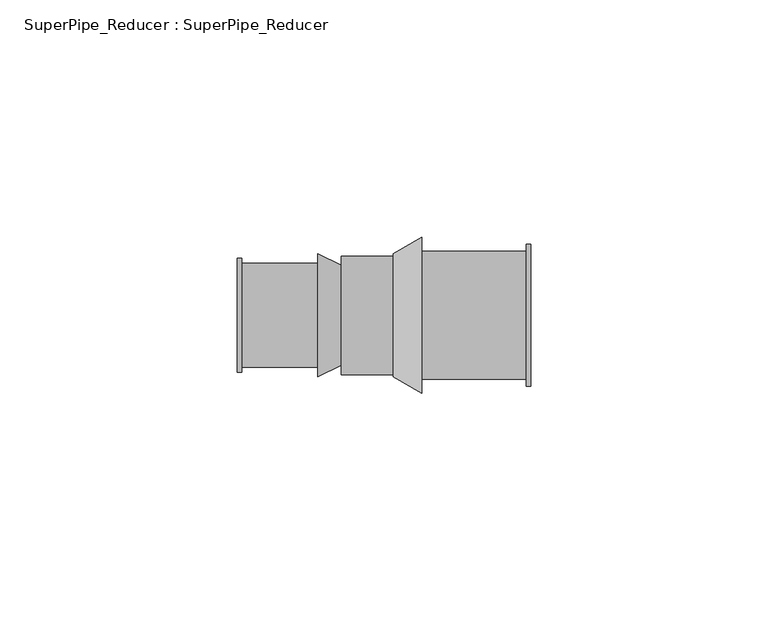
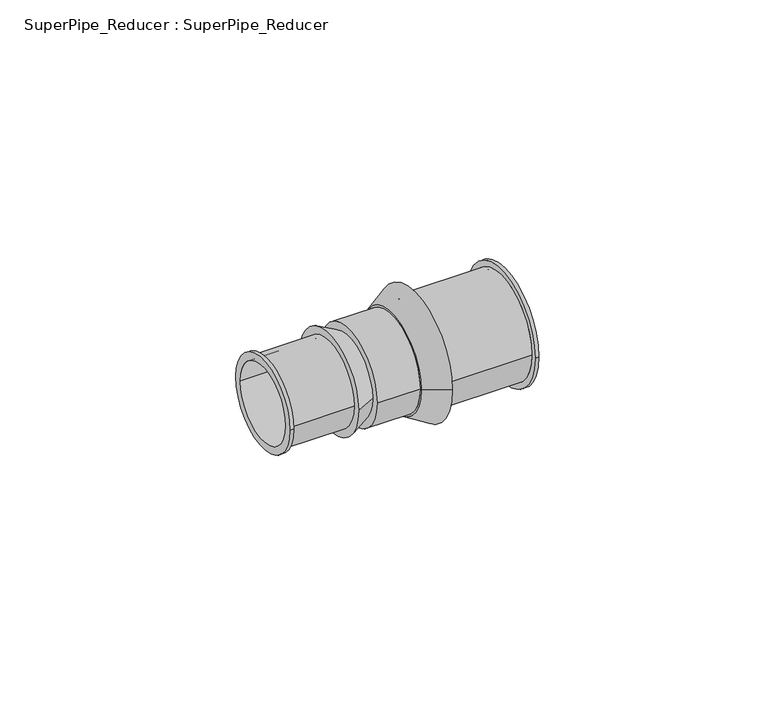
"""IFC4 building model written with IfcOpenShell, lengths in millimetres: pipe fitting geometry, SuperPipe_Reducer : SuperPipe_Reducer."""

from ifc_helpers import new_model, si_unit, point, frame, origin, origin_2d, place, context, project, spatial, polyline, circle_curve, trimmed, segment, composite_curve, outline, extrude, source, transform, mapped, element, save
from ifc_brep_helpers import plane_surface, cylinder_surface, revolved_surface, advanced_brep


def superpipe_reducer_superpipe_reducer_bb732e57(model_context):
    return source(origin(), model_context, "Body", "SolidModel", [
        advanced_brep(
        [(-31.0, -12.0, 0.0), (-31.0, 12.0, 0.0), (-31.0, -10.0, 0.0), (-31.0, 10.0, 0.0), (-14.0, -11.0, 0.0), (-14.0, 11.0, 0.0), (-14.0, -10.0, 0.0), (-14.0, 10.0, 0.0), (-30.0, -10.0, 0.0), (-30.0, 10.0, 0.0), (-30.0, 11.0, 0.0), (-30.0, -11.0, 0.0), (-30.0, -12.0, 0.0), (-30.0, 12.0, 0.0)],
        [
            (0, 1, circle_curve(frame((-31.0, 0.0, 0.0), z_axis=(-1.0, 0.0, 0.0), x_axis=(0.0, 1.0, 0.0)), 12.0)),
            (1, 0, circle_curve(frame((-31.0, 0.0, 0.0), z_axis=(-1.0, 0.0, 0.0), x_axis=(0.0, 1.0, 0.0)), 12.0)),
            (2, 3, circle_curve(frame((-31.0, 0.0, 0.0), z_axis=(1.0, 0.0, 0.0), x_axis=(0.0, 1.0, 0.0)), 10.0)),
            (3, 2, circle_curve(frame((-31.0, 0.0, 0.0), z_axis=(1.0, 0.0, 0.0), x_axis=(0.0, 1.0, 0.0)), 10.0)),
            (4, 5, circle_curve(frame((-14.0, 0.0, 0.0), z_axis=(1.0, 0.0, 0.0), x_axis=(0.0, 1.0, 0.0)), 11.0)),
            (5, 4, circle_curve(frame((-14.0, 0.0, 0.0), z_axis=(1.0, 0.0, 0.0), x_axis=(0.0, 1.0, 0.0)), 11.0)),
            (6, 7, circle_curve(frame((-14.0, 0.0, 0.0), z_axis=(-1.0, 0.0, 0.0), x_axis=(0.0, 1.0, 0.0)), 10.0)),
            (7, 6, circle_curve(frame((-14.0, 0.0, 0.0), z_axis=(-1.0, 0.0, 0.0), x_axis=(0.0, 1.0, 0.0)), 10.0)),
            (2, 8),
            (8, 6),
            (7, 9),
            (9, 3),
            (5, 10),
            (10, 11, circle_curve(frame((-30.0, 0.0, 0.0), z_axis=(1.0, 0.0, 0.0), x_axis=(0.0, 1.0, 0.0)), 11.0)),
            (11, 4),
            (11, 10, circle_curve(frame((-30.0, 0.0, 0.0), z_axis=(1.0, 0.0, 0.0), x_axis=(0.0, 1.0, 0.0)), 11.0)),
            (12, 13, circle_curve(frame((-30.0, 0.0, 0.0), z_axis=(1.0, 0.0, 0.0), x_axis=(0.0, 1.0, 0.0)), 12.0)),
            (13, 12, circle_curve(frame((-30.0, 0.0, 0.0), z_axis=(1.0, 0.0, 0.0), x_axis=(0.0, 1.0, 0.0)), 12.0)),
            (1, 13),
            (12, 0),
        ],
        [
            plane_surface(frame((-31.0, 0.0, 0.0), z_axis=(-1.0, 0.0, 0.0), x_axis=(0.0, 0.0, 1.0))),
            plane_surface(frame((-14.0, 0.0, 0.0), z_axis=(1.0, 0.0, 0.0), x_axis=(0.0, 0.0, 1.0))),
            revolved_surface(polyline([(-14.0, 10.0, 0.0), (-31.0, 10.0, 0.0)]), (-31.0, 0.0, 0.0), (1.0, 0.0, 0.0)),
            cylinder_surface(frame((-31.0, 0.0, 0.0), z_axis=(-1.0, 0.0, 0.0), x_axis=(0.0, 1.0, 0.0)), 11.0),
            plane_surface(frame((-30.0, 0.0, 0.0), z_axis=(1.0, 0.0, 0.0), x_axis=(0.0, 0.0, 1.0))),
            cylinder_surface(frame((-31.0, 0.0, 0.0), z_axis=(-1.0, 0.0, 0.0), x_axis=(0.0, 1.0, 0.0)), 12.0),
        ],
        [
            (0, [[1, 2], [3, 4]]),
            (1, [[5, 6], [7, 8]]),
            (2, [[-3, 9, 10, -8, 11, 12]]),
            (2, [[-4, -12, -11, -7, -10, -9]]),
            (3, [[-6, 13, 14, 15]]),
            (3, [[-5, -15, 16, -13]]),
            (4, [[17, 18], [-14, -16]]),
            (5, [[-2, 19, -17, 20]]),
            (5, [[-1, -20, -18, -19]]),
        ],
    ),
        advanced_brep(
        [(-9.0, -10.5, 0.0), (-9.0, 10.5, 0.0), (-9.0, -10.0, 0.0), (-9.0, 10.0, 0.0), (-14.0, -13.0, 0.0), (-14.0, 13.0, 0.0), (-14.0, 10.0, 0.0), (-14.0, -10.0, 0.0)],
        [
            (0, 1, circle_curve(frame((-9.0, 0.0, 0.0), z_axis=(1.0, 0.0, 0.0), x_axis=(0.0, -1.0, 0.0)), 10.5)),
            (1, 0, circle_curve(frame((-9.0, 0.0, 0.0), z_axis=(1.0, 0.0, 0.0), x_axis=(0.0, 1.0, 0.0)), 10.5)),
            (2, 3, circle_curve(frame((-9.0, 0.0, 0.0), z_axis=(-1.0, 0.0, 0.0), x_axis=(0.0, 1.0, 0.0)), 10.0)),
            (3, 2, circle_curve(frame((-9.0, 0.0, 0.0), z_axis=(-1.0, 0.0, 0.0), x_axis=(0.0, 1.0, 0.0)), 10.0)),
            (4, 5, circle_curve(frame((-14.0, 0.0, 0.0), z_axis=(-1.0, 0.0, 0.0), x_axis=(0.0, 1.0, 0.0)), 13.0)),
            (5, 4, circle_curve(frame((-14.0, 0.0, 0.0), z_axis=(-1.0, 0.0, 0.0), x_axis=(0.0, -1.0, 0.0)), 13.0)),
            (6, 7, circle_curve(frame((-14.0, 0.0, 0.0), z_axis=(1.0, 0.0, 0.0), x_axis=(0.0, 1.0, 0.0)), 10.0)),
            (7, 6, circle_curve(frame((-14.0, 0.0, 0.0), z_axis=(1.0, 0.0, 0.0), x_axis=(0.0, 1.0, 0.0)), 10.0)),
            (0, 4),
            (5, 1),
            (6, 3),
            (2, 7),
        ],
        [
            plane_surface(frame((-9.0, 0.0, 0.0), z_axis=(1.0, 0.0, 0.0), x_axis=(0.0, 0.0, -1.0))),
            plane_surface(frame((-14.0, 0.0, 0.0), z_axis=(-1.0, 0.0, 0.0), x_axis=(0.0, 0.0, -1.0))),
            revolved_surface(polyline([(-9.0, -10.5, 0.0), (-14.0, -13.0, 0.0)]), (12.0, 0.0, 0.0), (-1.0, 0.0, 0.0)),
            revolved_surface(polyline([(-9.0, 10.5, 0.0), (-14.0, 13.0, 0.0)]), (12.0, 0.0, 0.0), (-1.0, 0.0, 0.0)),
            revolved_surface(polyline([(-14.0, 10.0, 0.0), (-9.0, 10.0, 0.0)]), (-14.0, 0.0, 0.0), (-1.0, 0.0, 0.0)),
        ],
        [
            (0, [[1, 2], [3, 4]]),
            (1, [[5, 6], [7, 8]]),
            (2, [[-1, 9, -6, 10]]),
            (3, [[-2, -10, -5, -9]]),
            (4, [[11, -3, 12, -7]]),
            (4, [[-11, -8, -12, -4]]),
        ],
    ),
        advanced_brep(
        [(8.0, -16.5, 0.0), (8.0, 16.5, 0.0), (8.0, -12.5, 0.0), (8.0, 12.5, 0.0), (2.0, -13.0, 0.0), (2.0, 13.0, 0.0), (2.0, 12.5, 0.0), (2.0, -12.5, 0.0)],
        [
            (0, 1, circle_curve(frame((8.0, 0.0, 0.0), z_axis=(1.0, 0.0, 0.0), x_axis=(0.0, -1.0, 0.0)), 16.5)),
            (1, 0, circle_curve(frame((8.0, 0.0, 0.0), z_axis=(1.0, 0.0, 0.0), x_axis=(0.0, 1.0, 0.0)), 16.5)),
            (2, 3, circle_curve(frame((8.0, 0.0, 0.0), z_axis=(-1.0, 0.0, 0.0), x_axis=(0.0, 1.0, 0.0)), 12.5)),
            (3, 2, circle_curve(frame((8.0, 0.0, 0.0), z_axis=(-1.0, 0.0, 0.0), x_axis=(0.0, 1.0, 0.0)), 12.5)),
            (4, 5, circle_curve(frame((2.0, 0.0, 0.0), z_axis=(-1.0, 0.0, 0.0), x_axis=(0.0, 1.0, 0.0)), 13.0)),
            (5, 4, circle_curve(frame((2.0, 0.0, 0.0), z_axis=(-1.0, 0.0, 0.0), x_axis=(0.0, -1.0, 0.0)), 13.0)),
            (6, 7, circle_curve(frame((2.0, 0.0, 0.0), z_axis=(1.0, 0.0, 0.0), x_axis=(0.0, 1.0, 0.0)), 12.5)),
            (7, 6, circle_curve(frame((2.0, 0.0, 0.0), z_axis=(1.0, 0.0, 0.0), x_axis=(0.0, 1.0, 0.0)), 12.5)),
            (0, 4),
            (5, 1),
            (6, 3),
            (2, 7),
        ],
        [
            plane_surface(frame((8.0, 0.0, 0.0), z_axis=(1.0, 0.0, 0.0), x_axis=(0.0, 0.0, -1.0))),
            plane_surface(frame((2.0, 0.0, 0.0), z_axis=(-1.0, 0.0, 0.0), x_axis=(0.0, 0.0, -1.0))),
            revolved_surface(polyline([(2.0, 13.000000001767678, 0.0), (8.0, 16.5, 0.0)]), (-20.2857143, 0.0, 0.0), (1.0, 0.0, 0.0)),
            revolved_surface(polyline([(2.0, -13.000000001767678, 0.0), (8.0, -16.5, 0.0)]), (-20.2857143, 0.0, 0.0), (1.0, 0.0, 0.0)),
            revolved_surface(polyline([(2.0, 12.5, 0.0), (8.0, 12.5, 0.0)]), (2.0, 0.0, 0.0), (-1.0, 0.0, 0.0)),
        ],
        [
            (0, [[1, 2], [3, 4]]),
            (1, [[5, 6], [7, 8]]),
            (2, [[-1, 9, -6, 10]]),
            (3, [[-2, -10, -5, -9]]),
            (4, [[11, -3, 12, -7]]),
            (4, [[-11, -8, -12, -4]]),
        ],
    ),
        advanced_brep(
        [(8.0, -13.5, 0.0), (8.0, 13.5, 0.0), (8.0, -12.5, 0.0), (8.0, 12.5, 0.0), (31.0, -15.0, 0.0), (31.0, 15.0, 0.0), (31.0, -12.5, 0.0), (31.0, 12.5, 0.0), (30.0, -13.5, 0.0), (30.0, 13.5, 0.0), (30.0, -12.5, 0.0), (30.0, 12.5, 0.0), (30.0, -15.0, 0.0), (30.0, 15.0, 0.0)],
        [
            (0, 1, circle_curve(frame((8.0, 0.0, 0.0), z_axis=(-1.0, 0.0, 0.0), x_axis=(0.0, 1.0, 0.0)), 13.5)),
            (1, 0, circle_curve(frame((8.0, 0.0, 0.0), z_axis=(-1.0, 0.0, 0.0), x_axis=(0.0, 1.0, 0.0)), 13.5)),
            (2, 3, circle_curve(frame((8.0, 0.0, 0.0), z_axis=(1.0, 0.0, 0.0), x_axis=(0.0, 1.0, 0.0)), 12.5)),
            (3, 2, circle_curve(frame((8.0, 0.0, 0.0), z_axis=(1.0, 0.0, 0.0), x_axis=(0.0, 1.0, 0.0)), 12.5)),
            (4, 5, circle_curve(frame((31.0, 0.0, 0.0), z_axis=(1.0, 0.0, 0.0), x_axis=(0.0, 1.0, 0.0)), 15.0)),
            (5, 4, circle_curve(frame((31.0, 0.0, 0.0), z_axis=(1.0, 0.0, 0.0), x_axis=(0.0, 1.0, 0.0)), 15.0)),
            (6, 7, circle_curve(frame((31.0, 0.0, 0.0), z_axis=(-1.0, 0.0, 0.0), x_axis=(0.0, 1.0, 0.0)), 12.5)),
            (7, 6, circle_curve(frame((31.0, 0.0, 0.0), z_axis=(-1.0, 0.0, 0.0), x_axis=(0.0, 1.0, 0.0)), 12.5)),
            (0, 8),
            (8, 9, circle_curve(frame((30.0, 0.0, 0.0), z_axis=(-1.0, 0.0, 0.0), x_axis=(0.0, 1.0, 0.0)), 13.5)),
            (9, 1),
            (9, 8, circle_curve(frame((30.0, 0.0, 0.0), z_axis=(-1.0, 0.0, 0.0), x_axis=(0.0, 1.0, 0.0)), 13.5)),
            (2, 10),
            (10, 6),
            (7, 11),
            (11, 3),
            (12, 13, circle_curve(frame((30.0, 0.0, 0.0), z_axis=(-1.0, 0.0, 0.0), x_axis=(0.0, 1.0, 0.0)), 15.0)),
            (13, 12, circle_curve(frame((30.0, 0.0, 0.0), z_axis=(-1.0, 0.0, 0.0), x_axis=(0.0, 1.0, 0.0)), 15.0)),
            (13, 5),
            (4, 12),
        ],
        [
            plane_surface(frame((8.0, 0.0, 0.0), z_axis=(-1.0, 0.0, 0.0), x_axis=(0.0, 0.0, 1.0))),
            plane_surface(frame((31.0, 0.0, 0.0), z_axis=(1.0, 0.0, 0.0), x_axis=(0.0, 0.0, 1.0))),
            cylinder_surface(frame((8.0, 0.0, 0.0), z_axis=(-1.0, 0.0, 0.0), x_axis=(0.0, 1.0, 0.0)), 13.5),
            revolved_surface(polyline([(31.0, 12.5, 0.0), (8.0, 12.5, 0.0)]), (8.0, 0.0, 0.0), (1.0, 0.0, 0.0)),
            plane_surface(frame((30.0, 0.0, 0.0), z_axis=(-1.0, 0.0, 0.0), x_axis=(0.0, 0.0, 1.0))),
            cylinder_surface(frame((30.0, 0.0, 0.0), z_axis=(-1.0, 0.0, 0.0), x_axis=(0.0, 1.0, 0.0)), 15.0),
        ],
        [
            (0, [[1, 2], [3, 4]]),
            (1, [[5, 6], [7, 8]]),
            (2, [[-1, 9, 10, 11]]),
            (2, [[-2, -11, 12, -9]]),
            (3, [[-3, 13, 14, -8, 15, 16]]),
            (3, [[-4, -16, -15, -7, -14, -13]]),
            (4, [[17, 18], [-10, -12]]),
            (5, [[-18, 19, -5, 20]]),
            (5, [[-17, -20, -6, -19]]),
        ],
    ),
        extrude(outline(composite_curve([segment(trimmed(circle_curve(origin_2d(), 12.5), [point((-12.5, 0.0))], [point((12.5, 0.0))], False, "CARTESIAN"), True, "CONTINUOUS"), segment(trimmed(circle_curve(origin_2d(), 12.5), [point((12.5, 0.0))], [point((-12.5, 0.0))], False, "CARTESIAN"), True, "CONTINUOUS")], self_intersect=False)), frame((-9.0, 0.0, 0.0), z_axis=(1.0, 0.0, 0.0), x_axis=(0.0, 1.0, 0.0)), (0.0, 0.0, 1.0), 11.0),
    ])


if __name__ == "__main__":
    model = new_model("IFC4")
    model_context = context("Model", 3, world=origin())
    ifc_project = project(units=[si_unit("LENGTHUNIT", "METRE", prefix="MILLI")], contexts=[model_context])
    site = spatial("IfcSite", under=ifc_project)
    building = spatial("IfcBuilding", under=site)
    placement = place(None, origin())
    superpipe_reducer_superpipe_reducer_shape = superpipe_reducer_superpipe_reducer_bb732e57(model_context)
    element("IfcPipeFitting", 1, ObjectType="SuperPipe_Reducer : SuperPipe_Reducer", at=placement, inside=building, context=model_context, shape_type="MappedRepresentation", body=[
        mapped(superpipe_reducer_superpipe_reducer_shape, transform((0.0, 0.0, 0.0), x_axis=(1.0, 0.0, 0.0), y_axis=(0.0, 1.0, 0.0), z_axis=(0.0, 0.0, 1.0))),
    ])
    save(model, "model.ifc")
